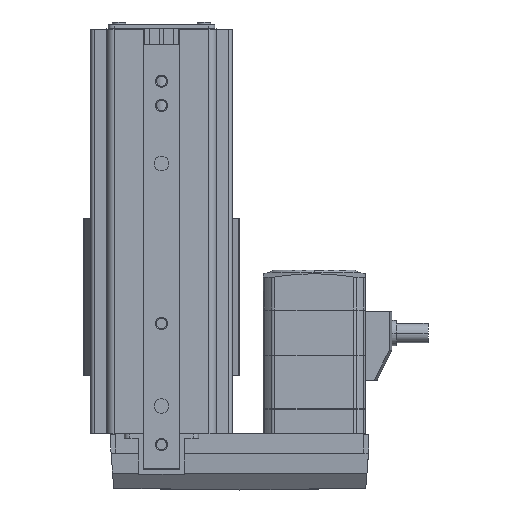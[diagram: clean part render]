
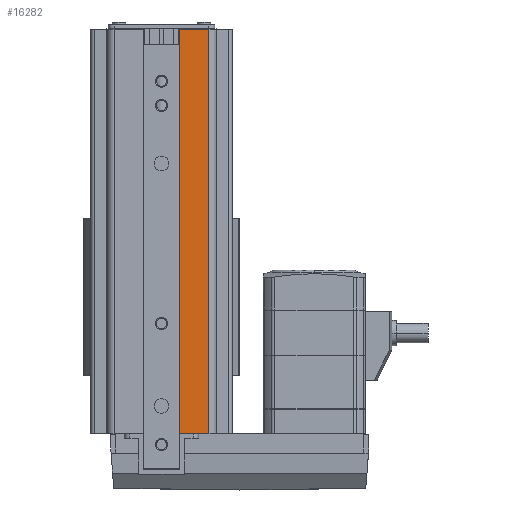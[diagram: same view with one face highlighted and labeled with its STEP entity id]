
A CAD part, front view. The second image highlights one B-rep face of the part: STEP entity #16282.
In plain terms, the highlighted planar face has unit normal (0, -1, 0).
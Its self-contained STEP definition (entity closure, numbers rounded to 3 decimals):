
#3319 = CARTESIAN_POINT ( 'NONE',  ( 7.5, -34., 0. ) ) ;
#6338 = CARTESIAN_POINT ( 'NONE',  ( 7.5, -34., 160.5 ) ) ;
#6380 = CARTESIAN_POINT ( 'NONE',  ( 7.5, -34., 167. ) ) ;
#6471 = CARTESIAN_POINT ( 'NONE',  ( 19.5, -34., 0. ) ) ;
#6640 = CARTESIAN_POINT ( 'NONE',  ( 19.5, -34., 167. ) ) ;
#13188 = EDGE_LOOP ( 'NONE', ( #17687, #17689, #17686, #17688, #17690 ) ) ;
#16150 = EDGE_CURVE ( 'NONE', #20363, #20321, #25404, .T. ) ;
#16282 = ADVANCED_FACE ( 'NONE', ( #25533 ), #26768, .F. ) ;
#16477 = EDGE_CURVE ( 'NONE', #20363, #20623, #25779, .T. ) ;
#16609 = EDGE_CURVE ( 'NONE', #20321, #19613, #25911, .T. ) ;
#16610 = EDGE_CURVE ( 'NONE', #20454, #20623, #25912, .T. ) ;
#16611 = EDGE_CURVE ( 'NONE', #19613, #20454, #25913, .T. ) ;
#17686 = ORIENTED_EDGE ( 'NONE', *, *, #16150, .T. ) ;
#17687 = ORIENTED_EDGE ( 'NONE', *, *, #16610, .T. ) ;
#17688 = ORIENTED_EDGE ( 'NONE', *, *, #16609, .T. ) ;
#17689 = ORIENTED_EDGE ( 'NONE', *, *, #16477, .F. ) ;
#17690 = ORIENTED_EDGE ( 'NONE', *, *, #16611, .T. ) ;
#19613 = VERTEX_POINT ( 'NONE', #3319 ) ;
#20321 = VERTEX_POINT ( 'NONE', #6338 ) ;
#20363 = VERTEX_POINT ( 'NONE', #6380 ) ;
#20454 = VERTEX_POINT ( 'NONE', #6471 ) ;
#20623 = VERTEX_POINT ( 'NONE', #6640 ) ;
#24943 = CARTESIAN_POINT ( 'NONE',  ( 7.5, -34., 1750. ) ) ;
#24944 = DIRECTION ( 'NONE',  ( 0., 0., -1. ) ) ;
#25404 = LINE ( 'NONE', #24943, #26394 ) ;
#25533 = FACE_OUTER_BOUND ( 'NONE', #13188, .T. ) ;
#25779 = LINE ( 'NONE', #27304, #27733 ) ;
#25911 = LINE ( 'NONE', #27584, #27881 ) ;
#25912 = LINE ( 'NONE', #27586, #27882 ) ;
#25913 = LINE ( 'NONE', #27588, #27884 ) ;
#26394 = VECTOR ( 'NONE', #24944, 1000. ) ;
#26527 = AXIS2_PLACEMENT_3D ( 'NONE', #26769, #26770, #26771 ) ;
#26768 = PLANE ( 'NONE',  #26527 ) ;
#26769 = CARTESIAN_POINT ( 'NONE',  ( 22.5, -34., 1750. ) ) ;
#26770 = DIRECTION ( 'NONE',  ( 0., 1., 0. ) ) ;
#26771 = DIRECTION ( 'NONE',  ( -1., 0., 0. ) ) ;
#27304 = CARTESIAN_POINT ( 'NONE',  ( 22.5, -34., 167. ) ) ;
#27305 = DIRECTION ( 'NONE',  ( 1., 0., 0. ) ) ;
#27584 = CARTESIAN_POINT ( 'NONE',  ( 7.5, -34., 1750. ) ) ;
#27585 = DIRECTION ( 'NONE',  ( 0., 0., -1. ) ) ;
#27586 = CARTESIAN_POINT ( 'NONE',  ( 19.5, -34., 1750. ) ) ;
#27587 = DIRECTION ( 'NONE',  ( 0., 0., 1. ) ) ;
#27588 = CARTESIAN_POINT ( 'NONE',  ( 22.5, -34., 0. ) ) ;
#27589 = DIRECTION ( 'NONE',  ( 1., 0., 0. ) ) ;
#27733 = VECTOR ( 'NONE', #27305, 1000. ) ;
#27881 = VECTOR ( 'NONE', #27585, 1000. ) ;
#27882 = VECTOR ( 'NONE', #27587, 1000. ) ;
#27884 = VECTOR ( 'NONE', #27589, 1000. ) ;
